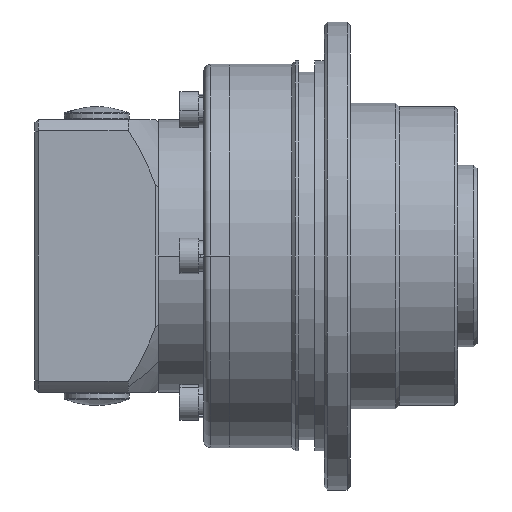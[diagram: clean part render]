
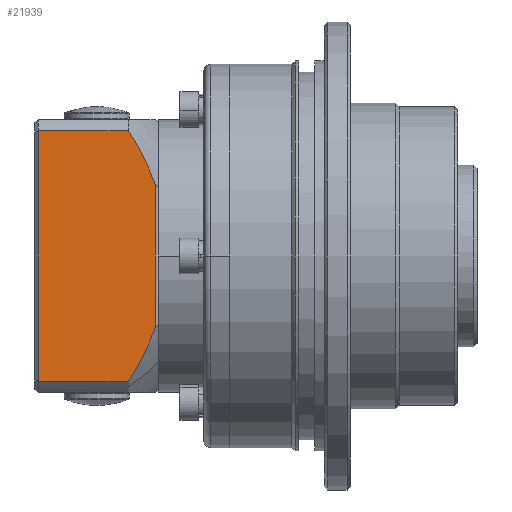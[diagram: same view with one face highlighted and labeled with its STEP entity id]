
A CAD part, front view. The second image highlights one B-rep face of the part: STEP entity #21939.
In plain terms, the highlighted planar face has unit normal (0, -1, 0).
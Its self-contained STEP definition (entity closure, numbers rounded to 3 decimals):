
#513 = DIRECTION ( 'NONE',  ( 0., 1., 0. ) ) ;
#540 = ORIENTED_EDGE ( 'NONE', *, *, #14499, .F. ) ;
#717 = AXIS2_PLACEMENT_3D ( 'NONE', #10294, #24572, #12349 ) ;
#969 = LINE ( 'NONE', #16870, #16013 ) ;
#2606 = CARTESIAN_POINT ( 'NONE',  ( -11.5, -21., -10.976 ) ) ;
#2968 = CARTESIAN_POINT ( 'NONE',  ( -15.659, -21., -19.268 ) ) ;
#4773 = VERTEX_POINT ( 'NONE', #22161 ) ;
#4793 = CARTESIAN_POINT ( 'NONE',  ( -11., -21., -21. ) ) ;
#4809 = ORIENTED_EDGE ( 'NONE', *, *, #24307, .T. ) ;
#5655 = ORIENTED_EDGE ( 'NONE', *, *, #25058, .T. ) ;
#6859 = DIRECTION ( 'NONE',  ( 0., 1., 0. ) ) ;
#6866 = CARTESIAN_POINT ( 'NONE',  ( 3., -21., -19.268 ) ) ;
#6901 = CARTESIAN_POINT ( 'NONE',  ( -29.5, -21., 19.268 ) ) ;
#7676 = ORIENTED_EDGE ( 'NONE', *, *, #21206, .F. ) ;
#8539 = VERTEX_POINT ( 'NONE', #2606 ) ;
#10164 = AXIS2_PLACEMENT_3D ( 'NONE', #4793, #6859, #21124 ) ;
#10294 = CARTESIAN_POINT ( 'NONE',  ( -43.726, -21., 0. ) ) ;
#10941 = VECTOR ( 'NONE', #11275, 1000. ) ;
#11054 = EDGE_LOOP ( 'NONE', ( #4809, #5655, #23704, #540, #18710, #7676 ) ) ;
#11153 = CIRCLE ( 'NONE', #17132, 34.044 ) ;
#11198 = CARTESIAN_POINT ( 'NONE',  ( -11.5, -21., 10.976 ) ) ;
#11275 = DIRECTION ( 'NONE',  ( -1., 0., 0. ) ) ;
#11729 = VECTOR ( 'NONE', #13002, 1000. ) ;
#12349 = DIRECTION ( 'NONE',  ( 0., 0., 1. ) ) ;
#12424 = CARTESIAN_POINT ( 'NONE',  ( -15.659, -21., 19.268 ) ) ;
#12759 = CARTESIAN_POINT ( 'NONE',  ( -43.726, -21., 0. ) ) ;
#12948 = CIRCLE ( 'NONE', #717, 34.044 ) ;
#13002 = DIRECTION ( 'NONE',  ( -1., 0., 0. ) ) ;
#14499 = EDGE_CURVE ( 'NONE', #8539, #25712, #11153, .T. ) ;
#14538 = LINE ( 'NONE', #15712, #24094 ) ;
#14833 = DIRECTION ( 'NONE',  ( 0., 0., 1. ) ) ;
#15712 = CARTESIAN_POINT ( 'NONE',  ( -11.5, -21., 9.381 ) ) ;
#16013 = VECTOR ( 'NONE', #16786, 1000. ) ;
#16786 = DIRECTION ( 'NONE',  ( 0., 0., -1. ) ) ;
#16870 = CARTESIAN_POINT ( 'NONE',  ( -29.5, -21., -21. ) ) ;
#17043 = PLANE ( 'NONE',  #10164 ) ;
#17132 = AXIS2_PLACEMENT_3D ( 'NONE', #12759, #513, #14833 ) ;
#17159 = LINE ( 'NONE', #6866, #11729 ) ;
#17249 = VERTEX_POINT ( 'NONE', #11198 ) ;
#17723 = VERTEX_POINT ( 'NONE', #6901 ) ;
#17839 = EDGE_CURVE ( 'NONE', #8539, #17249, #14538, .T. ) ;
#18710 = ORIENTED_EDGE ( 'NONE', *, *, #17839, .T. ) ;
#19286 = FACE_OUTER_BOUND ( 'NONE', #11054, .T. ) ;
#20238 = EDGE_CURVE ( 'NONE', #25712, #4773, #17159, .T. ) ;
#21124 = DIRECTION ( 'NONE',  ( 0., 0., 1. ) ) ;
#21206 = EDGE_CURVE ( 'NONE', #24691, #17249, #12948, .T. ) ;
#21939 = ADVANCED_FACE ( 'NONE', ( #19286 ), #17043, .F. ) ;
#22161 = CARTESIAN_POINT ( 'NONE',  ( -29.5, -21., -19.268 ) ) ;
#23478 = CARTESIAN_POINT ( 'NONE',  ( 3., -21., 19.268 ) ) ;
#23704 = ORIENTED_EDGE ( 'NONE', *, *, #20238, .F. ) ;
#23814 = DIRECTION ( 'NONE',  ( 0., 0., 1. ) ) ;
#24094 = VECTOR ( 'NONE', #23814, 1000. ) ;
#24307 = EDGE_CURVE ( 'NONE', #24691, #17723, #25975, .T. ) ;
#24572 = DIRECTION ( 'NONE',  ( 0., 1., 0. ) ) ;
#24691 = VERTEX_POINT ( 'NONE', #12424 ) ;
#25058 = EDGE_CURVE ( 'NONE', #17723, #4773, #969, .T. ) ;
#25712 = VERTEX_POINT ( 'NONE', #2968 ) ;
#25975 = LINE ( 'NONE', #23478, #10941 ) ;
